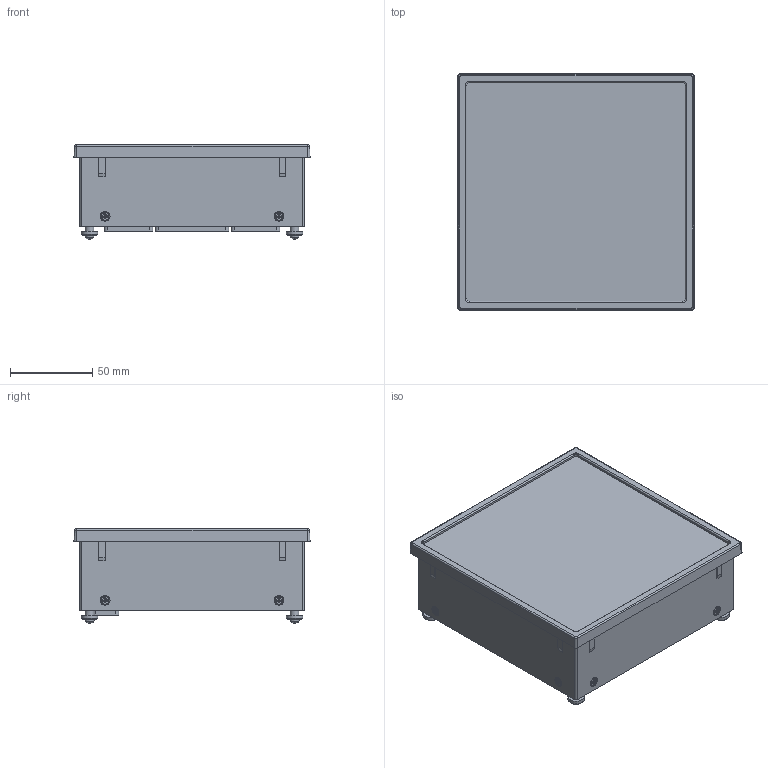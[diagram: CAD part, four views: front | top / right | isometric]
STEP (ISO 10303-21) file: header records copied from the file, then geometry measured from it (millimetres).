
FILE_DESCRIPTION((''),'2;1');
FILE_NAME('I:\TI\Bibliotheek\Inventor\Meters\S3v144S-B\S3v144S-B.stp','2011-02-03T10:25:59',('oey'),(''),'Autodesk Inventor 2011','Autodesk Inventor 2011','');
FILE_SCHEMA(('AUTOMOTIVE_DESIGN { 1 0 10303 214 1 1 1 1 }'));
Length unit declared in the file: millimetre
Products named in the file (1): S3v144S-B
Bounding box: 144 x 144 x 57.48 mm (x, y, z)
Volume: 238940.4 mm3; surface area: 146991.8 mm2
Topology: 1 solids, 633 shells, 1779 faces, 6055 edges, 4998 vertices
Faces by surface type: plane 1054, cylinder 415, cone 200, torus 78, sphere 28, bspline 4
Full cylindrical faces by diameter (mm): 0.457 x1, 1.567 x6, 1.6 x7, 2.013 x8, 2.224 x8, 2.3 x2, 2.459 x12, 2.5 x2, 2.9 x4, 3 x8, 3.2 x4, 4.5 x2, 4.7 x8, 5.2 x4, 10 x4
Entity records: 71638 total; most frequent: CARTESIAN_POINT 15301, DIRECTION 10603, ORIENTED_EDGE 8642, EDGE_CURVE 5843, VERTEX_POINT 4930, VECTOR 3859, LINE 3859, AXIS2_PLACEMENT_3D 3372
